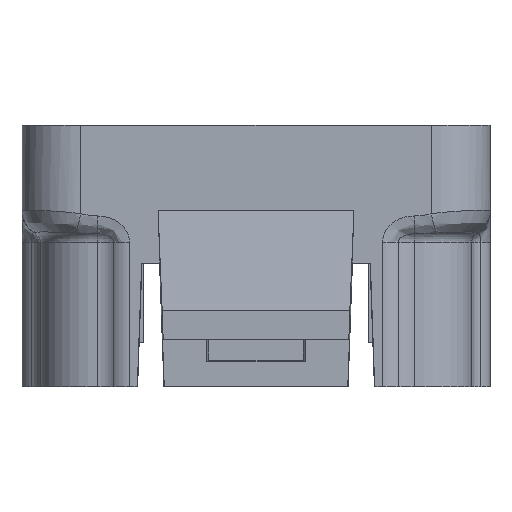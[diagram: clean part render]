
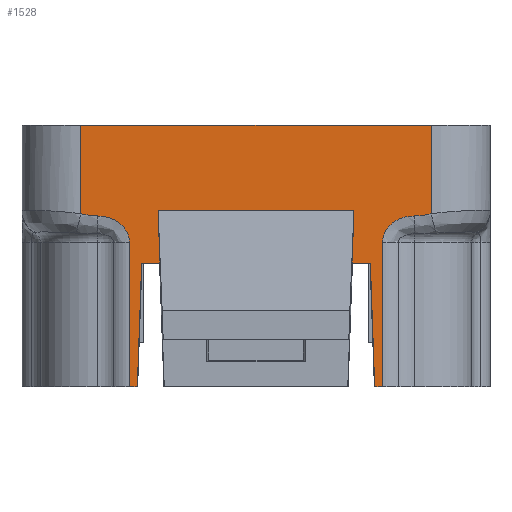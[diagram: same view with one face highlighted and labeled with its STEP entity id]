
A CAD part, left-side view. The second image highlights one B-rep face of the part: STEP entity #1528.
In plain terms, the highlighted planar face has unit normal (-1, 0, 0).
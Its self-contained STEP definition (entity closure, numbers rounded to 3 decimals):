
#1149=FACE_OUTER_BOUND('',#2428,.T.);
#1528=ADVANCED_FACE('',(#1149),#1938,.T.);
#1938=PLANE('',#16764);
#2428=EDGE_LOOP('',(#4570,#4571,#4572,#4573,#4574,#4575,#4576,#4577,#4578,
#4579,#4580,#4581,#4582,#4583,#4584,#4585,#4586,#4587));
#4570=ORIENTED_EDGE('',*,*,#8596,.F.);
#4571=ORIENTED_EDGE('',*,*,#8597,.T.);
#4572=ORIENTED_EDGE('',*,*,#8598,.T.);
#4573=ORIENTED_EDGE('',*,*,#8599,.T.);
#4574=ORIENTED_EDGE('',*,*,#8585,.T.);
#4575=ORIENTED_EDGE('',*,*,#8600,.T.);
#4576=ORIENTED_EDGE('',*,*,#8601,.T.);
#4577=ORIENTED_EDGE('',*,*,#8602,.T.);
#4578=ORIENTED_EDGE('',*,*,#8603,.T.);
#4579=ORIENTED_EDGE('',*,*,#8604,.T.);
#4580=ORIENTED_EDGE('',*,*,#8605,.T.);
#4581=ORIENTED_EDGE('',*,*,#8606,.T.);
#4582=ORIENTED_EDGE('',*,*,#8607,.T.);
#4583=ORIENTED_EDGE('',*,*,#8608,.T.);
#4584=ORIENTED_EDGE('',*,*,#8609,.T.);
#4585=ORIENTED_EDGE('',*,*,#8610,.T.);
#4586=ORIENTED_EDGE('',*,*,#8611,.T.);
#4587=ORIENTED_EDGE('',*,*,#8612,.F.);
#7161=VERTEX_POINT('',#25865);
#7162=VERTEX_POINT('',#25867);
#7171=VERTEX_POINT('',#25891);
#7172=VERTEX_POINT('',#25892);
#7173=VERTEX_POINT('',#25897);
#7174=VERTEX_POINT('',#25904);
#7175=VERTEX_POINT('',#25907);
#7176=VERTEX_POINT('',#25909);
#7177=VERTEX_POINT('',#25911);
#7178=VERTEX_POINT('',#25913);
#7179=VERTEX_POINT('',#25915);
#7180=VERTEX_POINT('',#25917);
#7181=VERTEX_POINT('',#25919);
#7182=VERTEX_POINT('',#25921);
#7183=VERTEX_POINT('',#25923);
#7184=VERTEX_POINT('',#25930);
#7185=VERTEX_POINT('',#25935);
#7186=VERTEX_POINT('',#25937);
#8585=EDGE_CURVE('',#7162,#7161,#13281,.T.);
#8596=EDGE_CURVE('',#7171,#7172,#13289,.T.);
#8597=EDGE_CURVE('',#7171,#7173,#10381,.T.);
#8598=EDGE_CURVE('',#7173,#7174,#10382,.T.);
#8599=EDGE_CURVE('',#7174,#7162,#13290,.T.);
#8600=EDGE_CURVE('',#7161,#7175,#13291,.T.);
#8601=EDGE_CURVE('',#7175,#7176,#13292,.T.);
#8602=EDGE_CURVE('',#7176,#7177,#13293,.T.);
#8603=EDGE_CURVE('',#7177,#7178,#13294,.T.);
#8604=EDGE_CURVE('',#7178,#7179,#13295,.T.);
#8605=EDGE_CURVE('',#7179,#7180,#13296,.T.);
#8606=EDGE_CURVE('',#7180,#7181,#13297,.T.);
#8607=EDGE_CURVE('',#7181,#7182,#13298,.T.);
#8608=EDGE_CURVE('',#7182,#7183,#13299,.T.);
#8609=EDGE_CURVE('',#7183,#7184,#10383,.T.);
#8610=EDGE_CURVE('',#7184,#7185,#10384,.T.);
#8611=EDGE_CURVE('',#7185,#7186,#13300,.T.);
#8612=EDGE_CURVE('',#7172,#7186,#13301,.T.);
#10381=B_SPLINE_CURVE_WITH_KNOTS('',3,(#25893,#25894,#25895,#25896),
 .UNSPECIFIED.,.F.,.F.,(4,4),(0.,1.),.UNSPECIFIED.);
#10382=B_SPLINE_CURVE_WITH_KNOTS('',3,(#25898,#25899,#25900,#25901,#25902,
#25903),.UNSPECIFIED.,.F.,.F.,(4,2,4),(0.,0.5,1.),.UNSPECIFIED.);
#10383=B_SPLINE_CURVE_WITH_KNOTS('',3,(#25924,#25925,#25926,#25927,#25928,
#25929),.UNSPECIFIED.,.F.,.F.,(4,2,4),(0.,0.5,1.),.UNSPECIFIED.);
#10384=B_SPLINE_CURVE_WITH_KNOTS('',3,(#25931,#25932,#25933,#25934),
 .UNSPECIFIED.,.F.,.F.,(4,4),(0.,1.),.UNSPECIFIED.);
#13281=LINE('',#25866,#14381);
#13289=LINE('',#25890,#14389);
#13290=LINE('',#25905,#14390);
#13291=LINE('',#25906,#14391);
#13292=LINE('',#25908,#14392);
#13293=LINE('',#25910,#14393);
#13294=LINE('',#25912,#14394);
#13295=LINE('',#25914,#14395);
#13296=LINE('',#25916,#14396);
#13297=LINE('',#25918,#14397);
#13298=LINE('',#25920,#14398);
#13299=LINE('',#25922,#14399);
#13300=LINE('',#25936,#14400);
#13301=LINE('',#25938,#14401);
#14381=VECTOR('',#18239,1.);
#14389=VECTOR('',#18261,1.);
#14390=VECTOR('',#18262,1.);
#14391=VECTOR('',#18263,1.);
#14392=VECTOR('',#18264,1.);
#14393=VECTOR('',#18265,1.);
#14394=VECTOR('',#18266,1.);
#14395=VECTOR('',#18267,1.);
#14396=VECTOR('',#18268,1.);
#14397=VECTOR('',#18269,1.);
#14398=VECTOR('',#18270,1.);
#14399=VECTOR('',#18271,1.);
#14400=VECTOR('',#18272,1.);
#14401=VECTOR('',#18273,1.);
#16764=AXIS2_PLACEMENT_3D('',#25939,#18274,#18275);
#18239=DIRECTION('',(0.,-1.,0.));
#18261=DIRECTION('',(0.,0.,1.));
#18262=DIRECTION('',(0.,0.,-1.));
#18263=DIRECTION('',(0.,-0.035,0.999));
#18264=DIRECTION('',(0.,-1.,0.));
#18265=DIRECTION('',(0.,0.035,0.999));
#18266=DIRECTION('',(0.,-1.,0.));
#18267=DIRECTION('',(0.,0.035,-0.999));
#18268=DIRECTION('',(0.,-1.,0.));
#18269=DIRECTION('',(0.,-0.035,-0.999));
#18270=DIRECTION('',(0.,-1.,0.));
#18271=DIRECTION('',(0.,0.,1.));
#18272=DIRECTION('',(0.,0.,1.));
#18273=DIRECTION('',(0.,-1.,0.));
#18274=DIRECTION('',(-1.,0.,0.));
#18275=DIRECTION('',(0.,-1.,0.));
#25865=CARTESIAN_POINT('',(-34.8,10.095,-21.25));
#25866=CARTESIAN_POINT('',(-34.8,14.9,-21.25));
#25867=CARTESIAN_POINT('',(-34.8,10.759,-21.25));
#25890=CARTESIAN_POINT('',(-34.8,14.9,-21.25));
#25891=CARTESIAN_POINT('',(-34.8,14.9,-6.533));
#25892=CARTESIAN_POINT('',(-34.8,14.9,1.));
#25893=CARTESIAN_POINT('',(-34.8,14.9,-6.533));
#25894=CARTESIAN_POINT('',(-34.8,14.432,-6.642));
#25895=CARTESIAN_POINT('',(-34.8,13.96,-6.723));
#25896=CARTESIAN_POINT('',(-34.8,13.477,-6.72));
#25897=CARTESIAN_POINT('',(-34.8,13.477,-6.72));
#25898=CARTESIAN_POINT('',(-34.8,13.477,-6.72));
#25899=CARTESIAN_POINT('',(-34.8,12.815,-6.717));
#25900=CARTESIAN_POINT('',(-34.8,12.148,-6.901));
#25901=CARTESIAN_POINT('',(-34.8,11.104,-7.704));
#25902=CARTESIAN_POINT('',(-34.8,10.759,-8.335));
#25903=CARTESIAN_POINT('',(-34.8,10.759,-9.));
#25904=CARTESIAN_POINT('',(-34.8,10.759,-9.));
#25905=CARTESIAN_POINT('',(-34.8,10.759,-21.25));
#25906=CARTESIAN_POINT('',(-34.8,10.101,-21.418));
#25907=CARTESIAN_POINT('',(-34.8,9.727,-10.722));
#25908=CARTESIAN_POINT('',(-34.8,14.9,-10.722));
#25909=CARTESIAN_POINT('',(-34.8,8.173,-10.722));
#25910=CARTESIAN_POINT('',(-34.8,8.172,-10.747));
#25911=CARTESIAN_POINT('',(-34.8,8.33,-6.243));
#25912=CARTESIAN_POINT('',(-34.8,8.2,-6.243));
#25913=CARTESIAN_POINT('',(-34.8,-8.33,-6.243));
#25914=CARTESIAN_POINT('',(-34.8,-7.777,-22.042));
#25915=CARTESIAN_POINT('',(-34.8,-8.173,-10.722));
#25916=CARTESIAN_POINT('',(-34.8,14.9,-10.722));
#25917=CARTESIAN_POINT('',(-34.8,-9.727,-10.722));
#25918=CARTESIAN_POINT('',(-34.8,-10.064,-20.378));
#25919=CARTESIAN_POINT('',(-34.8,-10.095,-21.25));
#25920=CARTESIAN_POINT('',(-34.8,14.9,-21.25));
#25921=CARTESIAN_POINT('',(-34.8,-10.759,-21.25));
#25922=CARTESIAN_POINT('',(-34.8,-10.759,-8.));
#25923=CARTESIAN_POINT('',(-34.8,-10.759,-9.));
#25924=CARTESIAN_POINT('',(-34.8,-10.759,-9.));
#25925=CARTESIAN_POINT('',(-34.8,-10.759,-8.335));
#25926=CARTESIAN_POINT('',(-34.8,-11.104,-7.704));
#25927=CARTESIAN_POINT('',(-34.8,-12.148,-6.901));
#25928=CARTESIAN_POINT('',(-34.8,-12.815,-6.717));
#25929=CARTESIAN_POINT('',(-34.8,-13.477,-6.72));
#25930=CARTESIAN_POINT('',(-34.8,-13.477,-6.72));
#25931=CARTESIAN_POINT('',(-34.8,-13.477,-6.72));
#25932=CARTESIAN_POINT('',(-34.8,-13.96,-6.723));
#25933=CARTESIAN_POINT('',(-34.8,-14.432,-6.642));
#25934=CARTESIAN_POINT('',(-34.8,-14.9,-6.533));
#25935=CARTESIAN_POINT('',(-34.8,-14.9,-6.533));
#25936=CARTESIAN_POINT('',(-34.8,-14.9,-21.25));
#25937=CARTESIAN_POINT('',(-34.8,-14.9,1.));
#25938=CARTESIAN_POINT('',(-34.8,-14.9,1.));
#25939=CARTESIAN_POINT('',(-34.8,14.9,-21.25));
